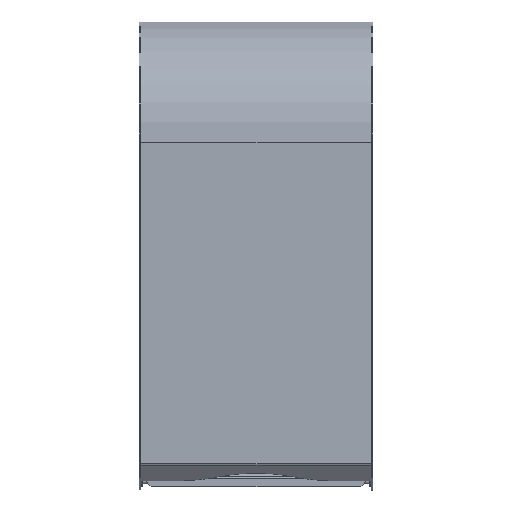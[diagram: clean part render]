
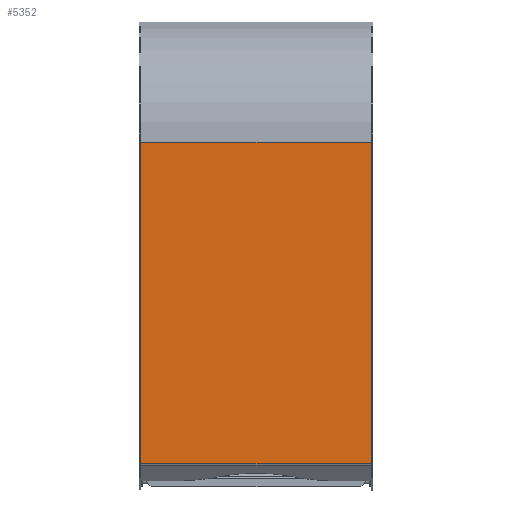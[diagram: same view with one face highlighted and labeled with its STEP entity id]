
A CAD part, top view. The second image highlights one B-rep face of the part: STEP entity #5352.
In plain terms, the highlighted planar face has unit normal (0, 0, 1) as drawn and (0, 1, 0) by its records, which use the part's own axes.
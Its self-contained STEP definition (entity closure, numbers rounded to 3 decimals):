
#5294=CARTESIAN_POINT('',(-184.17,0.0,132.));
#5295=VERTEX_POINT('',#5294);
#5303=CARTESIAN_POINT('',(-184.17,0.0,-132.0));
#5304=VERTEX_POINT('',#5303);
#5305=CARTESIAN_POINT('',(-184.17,0.0,-132.0));
#5306=DIRECTION('',(0.0,0.0,1.0));
#5307=VECTOR('',#5306,264.);
#5308=LINE('',#5305,#5307);
#5309=EDGE_CURVE('',#5304,#5295,#5308,.T.);
#5322=CARTESIAN_POINT('',(-184.17,0.0,-132.0));
#5323=DIRECTION('',(0.0,1.0,0.0));
#5324=DIRECTION('',(0.0,0.0,1.0));
#5325=AXIS2_PLACEMENT_3D('',#5322,#5323,#5324);
#5326=PLANE('',#5325);
#5327=CARTESIAN_POINT('',(184.17,0.,132.));
#5328=VERTEX_POINT('',#5327);
#5329=CARTESIAN_POINT('',(-184.17,0.0,132.0));
#5330=DIRECTION('',(1.0,0.0,0.0));
#5331=VECTOR('',#5330,368.34);
#5332=LINE('',#5329,#5331);
#5333=EDGE_CURVE('',#5295,#5328,#5332,.T.);
#5334=ORIENTED_EDGE('',*,*,#5333,.T.);
#5335=CARTESIAN_POINT('',(184.17,0.,-132.0));
#5336=VERTEX_POINT('',#5335);
#5337=CARTESIAN_POINT('',(184.17,0.,-132.0));
#5338=DIRECTION('',(0.0,0.0,1.0));
#5339=VECTOR('',#5338,264.);
#5340=LINE('',#5337,#5339);
#5341=EDGE_CURVE('',#5336,#5328,#5340,.T.);
#5342=ORIENTED_EDGE('',*,*,#5341,.F.);
#5343=CARTESIAN_POINT('',(-184.17,0.0,-132.0));
#5344=DIRECTION('',(1.0,0.0,0.0));
#5345=VECTOR('',#5344,368.34);
#5346=LINE('',#5343,#5345);
#5347=EDGE_CURVE('',#5304,#5336,#5346,.T.);
#5348=ORIENTED_EDGE('',*,*,#5347,.F.);
#5349=ORIENTED_EDGE('',*,*,#5309,.T.);
#5350=EDGE_LOOP('',(#5334,#5342,#5348,#5349));
#5351=FACE_OUTER_BOUND('',#5350,.T.);
#5352=ADVANCED_FACE('',(#5351),#5326,.T.);
